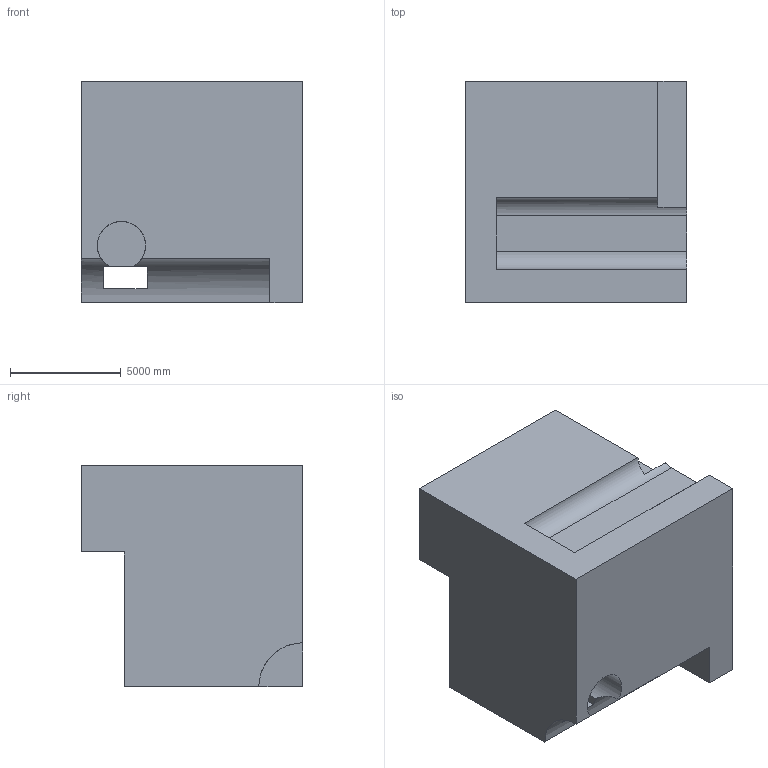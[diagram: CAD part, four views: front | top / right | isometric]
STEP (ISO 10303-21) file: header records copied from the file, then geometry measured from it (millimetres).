
FILE_DESCRIPTION (( 'STEP AP203' ), '1' );
FILE_NAME ('1748.STEP', '2022-08-19T12:21:37', ( 'user' ), ( '' ), 'SwSTEP 2.0', 'SolidWorks 2021', '' );
FILE_SCHEMA (( 'CONFIG_CONTROL_DESIGN' ));
Length unit declared in the file: centimetre
Products named in the file (1): 1748
Bounding box: 10000 x 10000 x 10000 mm (x, y, z)
Volume: 746495587351.7 mm3; surface area: 655058778.4 mm2
Topology: 1 solids, 1 shells, 30 faces, 84 edges, 56 vertices
Faces by surface type: plane 22, cylinder 8
Entity records: 1131 total; most frequent: CARTESIAN_POINT 258, ORIENTED_EDGE 168, DIRECTION 163, EDGE_CURVE 84, LINE 63, VECTOR 63, VERTEX_POINT 56, AXIS2_PLACEMENT_3D 50
